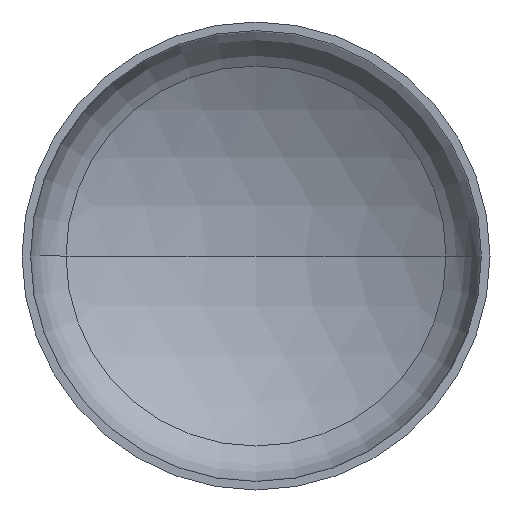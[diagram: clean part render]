
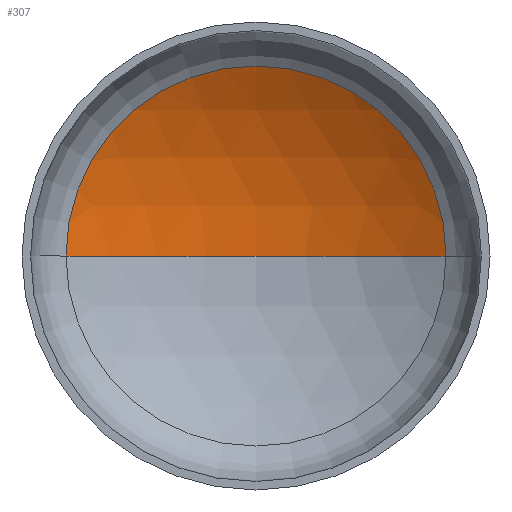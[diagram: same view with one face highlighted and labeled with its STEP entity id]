
A CAD part, front view. The second image highlights one B-rep face of the part: STEP entity #307.
In plain terms, the highlighted spherical face has radius 218 mm.
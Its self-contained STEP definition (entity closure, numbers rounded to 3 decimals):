
#2 = CARTESIAN_POINT ( 'NONE',  ( 0., -131.545, 0. ) ) ;
#5 = ORIENTED_EDGE ( 'NONE', *, *, #231, .T. ) ;
#12 = DIRECTION ( 'NONE',  ( 0., 0., 1. ) ) ;
#33 = AXIS2_PLACEMENT_3D ( 'NONE', #294, #145, #100 ) ;
#39 = ORIENTED_EDGE ( 'NONE', *, *, #234, .F. ) ;
#54 = CIRCLE ( 'NONE', #122, 218. ) ;
#55 = VERTEX_POINT ( 'NONE', #362 ) ;
#62 = VERTEX_POINT ( 'NONE', #192 ) ;
#74 = DIRECTION ( 'NONE',  ( -1., 0., 0. ) ) ;
#83 = VERTEX_POINT ( 'NONE', #223 ) ;
#84 = EDGE_LOOP ( 'NONE', ( #39, #5, #96 ) ) ;
#96 = ORIENTED_EDGE ( 'NONE', *, *, #225, .T. ) ;
#100 = DIRECTION ( 'NONE',  ( -1., 0., 0. ) ) ;
#122 = AXIS2_PLACEMENT_3D ( 'NONE', #335, #12, #275 ) ;
#127 = AXIS2_PLACEMENT_3D ( 'NONE', #2, #269, #74 ) ;
#132 = AXIS2_PLACEMENT_3D ( 'NONE', #336, #163, #361 ) ;
#145 = DIRECTION ( 'NONE',  ( 0., 0., -1. ) ) ;
#163 = DIRECTION ( 'NONE',  ( 0., -1., 0. ) ) ;
#192 = CARTESIAN_POINT ( 'NONE',  ( -110.858, 56.164, 0. ) ) ;
#223 = CARTESIAN_POINT ( 'NONE',  ( 110.858, 56.164, 0. ) ) ;
#225 = EDGE_CURVE ( 'NONE', #83, #62, #306, .T. ) ;
#231 = EDGE_CURVE ( 'NONE', #55, #83, #249, .T. ) ;
#234 = EDGE_CURVE ( 'NONE', #55, #62, #54, .T. ) ;
#236 = SPHERICAL_SURFACE ( 'NONE', #33, 218. ) ;
#249 = CIRCLE ( 'NONE', #127, 218. ) ;
#269 = DIRECTION ( 'NONE',  ( 0., 0., -1. ) ) ;
#275 = DIRECTION ( 'NONE',  ( 1., 0., 0. ) ) ;
#287 = FACE_OUTER_BOUND ( 'NONE', #84, .T. ) ;
#294 = CARTESIAN_POINT ( 'NONE',  ( 0., -131.545, 0. ) ) ;
#306 = CIRCLE ( 'NONE', #132, 110.858 ) ;
#307 = ADVANCED_FACE ( 'NONE', ( #287 ), #236, .F. ) ;
#335 = CARTESIAN_POINT ( 'NONE',  ( 0., -131.545, 0. ) ) ;
#336 = CARTESIAN_POINT ( 'NONE',  ( 0., 56.164, 0. ) ) ;
#361 = DIRECTION ( 'NONE',  ( 1., 0., 0. ) ) ;
#362 = CARTESIAN_POINT ( 'NONE',  ( 0., 86.455, 0. ) ) ;
